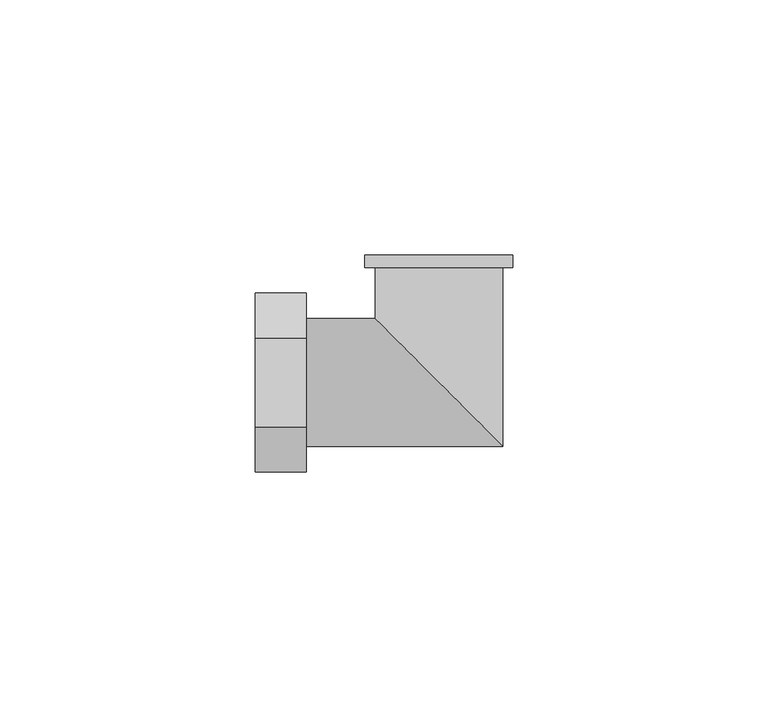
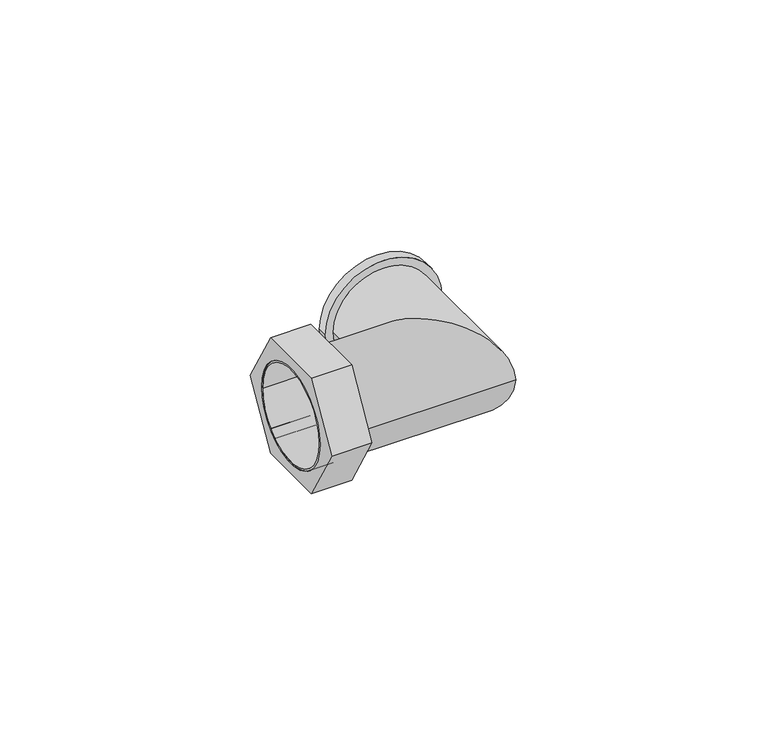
"""IFC4 building model written with IfcOpenShell, lengths in millimetres: pipe fitting geometry, БИР ПЕКС_НПР_Угольник_Гайка накидная : Угольник с накидной гайкой."""

from ifc_helpers import new_model, si_unit, point, frame, origin, origin_2d, place, context, project, spatial, polyline, circle_curve, ellipse_curve, trimmed, segment, composite_curve, outline, extrude, source, transform, mapped, element, save
from ifc_brep_helpers import plane_surface, cylinder_surface, revolved_surface, advanced_brep


def pipe_fitting_fa4199de(model_context):
    return source(origin(), model_context, "Body", "SolidModel", [
        extrude(outline(polyline([(-8.75, -15.1554446), (-17.5, 0.0), (-8.75, 15.1554446), (8.75, 15.1554446), (17.5, 0.0), (8.75, -15.1554446), (-8.75, -15.1554446)]), holes=[composite_curve([segment(trimmed(circle_curve(origin_2d(), 12.5), [point((-12.5, 0.0))], [point((12.5, 0.0))], True, "CARTESIAN"), True, "CONTINUOUS"), segment(trimmed(circle_curve(origin_2d(), 12.5), [point((12.5, 0.0))], [point((-12.5, 0.0))], True, "CARTESIAN"), True, "CONTINUOUS")], self_intersect=False)]), frame((-36.0, 0.0, 0.0), z_axis=(1.0, 0.0, 0.0), x_axis=(0.0, 1.0, 0.0)), (0.0, 0.0, 1.0), 10.0),
        advanced_brep(
        [(-36.0, -12.5, 0.0), (-36.0, 12.5, 0.0), (-36.0, -12.0, 0.0), (-36.0, 12.0, 0.0), (12.5, -12.5, 0.0), (-12.5, 12.5, 0.0), (-14.5, 25.0, 0.0), (14.5, 25.0, 0.0), (12.0, 25.0, 0.0), (-12.0, 25.0, 0.0), (12.5, 22.5, 0.0), (-12.5, 22.5, 0.0), (-14.5, 22.5, 0.0), (14.5, 22.5, 0.0), (12.0, -12.0, 0.0), (-12.0, 12.0, 0.0), (-12.0, 22.5, 0.0), (12.0, 22.5, 0.0)],
        [
            (0, 1, circle_curve(frame((-36.0, 0.0, 0.0), z_axis=(-1.0, 0.0, 0.0), x_axis=(0.0, 1.0, 0.0)), 12.5)),
            (1, 0, circle_curve(frame((-36.0, 0.0, 0.0), z_axis=(-1.0, 0.0, 0.0), x_axis=(0.0, 1.0, 0.0)), 12.5)),
            (2, 3, circle_curve(frame((-36.0, 0.0, 0.0), z_axis=(1.0, 0.0, 0.0), x_axis=(0.0, 1.0, 0.0)), 12.0)),
            (3, 2, circle_curve(frame((-36.0, 0.0, 0.0), z_axis=(1.0, 0.0, 0.0), x_axis=(0.0, 1.0, 0.0)), 12.0)),
            (0, 4),
            (4, 5, ellipse_curve(frame((0.0, 0.0, 0.0), z_axis=(-0.7071067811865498, -0.7071067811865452, 0.0), x_axis=(-0.7071067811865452, 0.7071067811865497, 0.0)), 17.6776695, 12.5)),
            (5, 1),
            (5, 4, ellipse_curve(frame((0.0, 0.0, 0.0), z_axis=(-0.7071067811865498, -0.7071067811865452, 0.0), x_axis=(-0.7071067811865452, 0.7071067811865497, 0.0)), 17.6776695, 12.5)),
            (6, 7, circle_curve(frame((0.0, 25.0, 0.0), z_axis=(0.0, 1.0, 0.0), x_axis=(1.0, 0.0, 0.0)), 14.5)),
            (7, 6, circle_curve(frame((0.0, 25.0, 0.0), z_axis=(0.0, 1.0, 0.0), x_axis=(1.0, 0.0, 0.0)), 14.5)),
            (8, 9, circle_curve(frame((0.0, 25.0, 0.0), z_axis=(0.0, -1.0, 0.0), x_axis=(-1.0, 0.0, 0.0)), 12.0)),
            (9, 8, circle_curve(frame((0.0, 25.0, 0.0), z_axis=(0.0, -1.0, 0.0), x_axis=(-1.0, 0.0, 0.0)), 12.0)),
            (4, 10),
            (10, 11, circle_curve(frame((0.0, 22.5, 0.0), z_axis=(0.0, -1.0, 0.0), x_axis=(-1.0, 0.0, 0.0)), 12.5)),
            (11, 5),
            (11, 10, circle_curve(frame((0.0, 22.5, 0.0), z_axis=(0.0, -1.0, 0.0), x_axis=(-1.0, 0.0, 0.0)), 12.5)),
            (12, 13, circle_curve(frame((0.0, 22.5, 0.0), z_axis=(0.0, -1.0, 0.0), x_axis=(1.0, 0.0, 0.0)), 14.5)),
            (13, 12, circle_curve(frame((0.0, 22.5, 0.0), z_axis=(0.0, -1.0, 0.0), x_axis=(1.0, 0.0, 0.0)), 14.5)),
            (12, 6),
            (7, 13),
            (2, 14),
            (14, 15, ellipse_curve(frame((0.0, 0.0, 0.0), z_axis=(0.7071067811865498, 0.7071067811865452, 0.0), x_axis=(0.7071067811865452, -0.7071067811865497, 0.0)), 16.9705627, 12.0)),
            (15, 3),
            (15, 14, ellipse_curve(frame((0.0, 0.0, 0.0), z_axis=(0.7071067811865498, 0.7071067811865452, 0.0), x_axis=(0.7071067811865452, -0.7071067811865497, 0.0)), 16.9705627, 12.0)),
            (9, 16),
            (16, 15),
            (14, 17),
            (17, 8),
        ],
        [
            plane_surface(frame((-36.0, 0.0, 0.0), z_axis=(-1.0, 0.0, 0.0), x_axis=(0.0, 0.0, 1.0))),
            cylinder_surface(frame((-36.0, 0.0, 0.0), z_axis=(-1.0, 0.0, 0.0), x_axis=(0.0, 1.0, 0.0)), 12.5),
            plane_surface(frame((0.0, 25.0, 0.0), z_axis=(0.0, 1.0, 0.0), x_axis=(0.0, 0.0, 1.0))),
            cylinder_surface(frame((0.0, 0.0, 0.0), z_axis=(0.0, -1.0, 0.0), x_axis=(-1.0, 0.0, 0.0)), 12.5),
            plane_surface(frame((14.5, 22.5, 0.0), z_axis=(0.0, -1.0, 0.0), x_axis=(0.0, 0.0, 1.0))),
            cylinder_surface(frame((0.0, 25.0, 0.0), z_axis=(0.0, -1.0, 0.0), x_axis=(1.0, 0.0, 0.0)), 14.5),
            revolved_surface(polyline([(12.0, 12.0, 0.0), (-36.0, 12.0, 0.0)]), (-36.0, 0.0, 0.0), (1.0, 0.0, 0.0)),
            revolved_surface(polyline([(-12.0, 25.0, 0.0), (-12.0, -12.0, 0.0)]), (0.0, 0.0, 0.0), (0.0, 1.0, 0.0)),
        ],
        [
            (0, [[1, 2], [3, 4]]),
            (1, [[-1, 5, 6, 7]]),
            (1, [[-2, -7, 8, -5]]),
            (2, [[9, 10], [11, 12]]),
            (3, [[-6, 13, 14, 15]]),
            (3, [[-8, -15, 16, -13]]),
            (4, [[17, 18], [-14, -16]]),
            (5, [[-17, 19, -10, 20]]),
            (5, [[-18, -20, -9, -19]]),
            (6, [[-3, 21, 22, 23]]),
            (6, [[-4, -23, 24, -21]]),
            (7, [[-12, 25, 26, -22, 27, 28]]),
            (7, [[-11, -28, -27, -24, -26, -25]]),
        ],
    ),
    ])


if __name__ == "__main__":
    model = new_model("IFC4")
    model_context = context("Model", 3, world=origin())
    ifc_project = project(units=[si_unit("LENGTHUNIT", "METRE", prefix="MILLI")], contexts=[model_context])
    site = spatial("IfcSite", under=ifc_project)
    building = spatial("IfcBuilding", under=site)
    placement = place(None, origin())
    pipe_fitting_shape = pipe_fitting_fa4199de(model_context)
    element("IfcPipeFitting", 1, ObjectType="БИР ПЕКС_НПР_Угольник_Гайка накидная : Угольник с накидной гайкой", at=placement, inside=building, context=model_context, shape_type="MappedRepresentation", body=[
        mapped(pipe_fitting_shape, transform((0.0, 0.0, 0.0), x_axis=(1.0, 0.0, 0.0), y_axis=(0.0, 1.0, 0.0), z_axis=(0.0, 0.0, 1.0))),
    ])
    save(model, "model.ifc")
